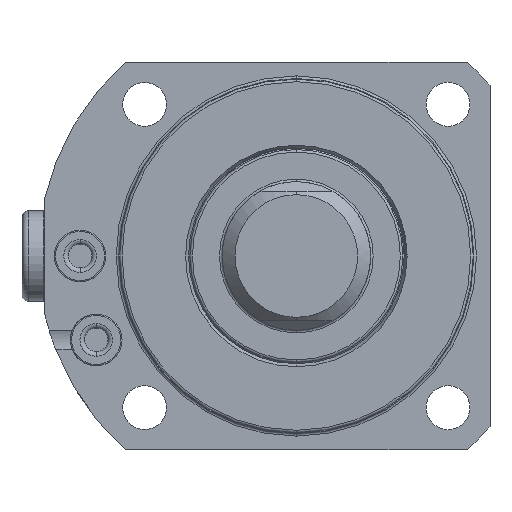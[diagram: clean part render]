
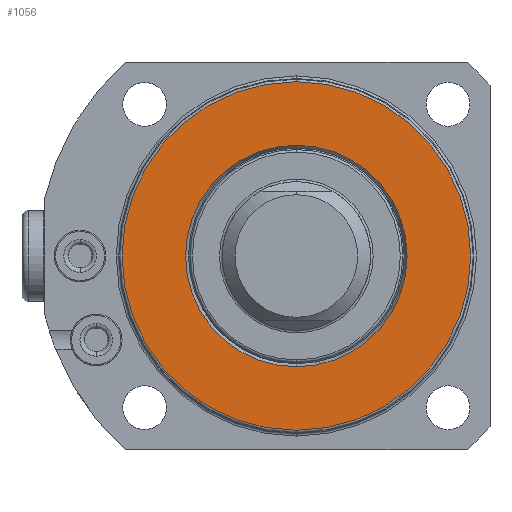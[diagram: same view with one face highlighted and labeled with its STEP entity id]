
A CAD part, front view. The second image highlights one B-rep face of the part: STEP entity #1056.
In plain terms, the highlighted planar face has unit normal (0, -1, 0).
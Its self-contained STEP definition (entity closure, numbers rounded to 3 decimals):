
#393=PLANE('',#4246);
#442=FACE_BOUND('',#1560,.T.);
#443=FACE_BOUND('',#1561,.T.);
#1056=ADVANCED_FACE('',(#442,#443),#393,.T.);
#1560=EDGE_LOOP('',(#2416,#2417));
#1561=EDGE_LOOP('',(#2418,#2419));
#2416=ORIENTED_EDGE('',*,*,#3378,.T.);
#2417=ORIENTED_EDGE('',*,*,#3443,.T.);
#2418=ORIENTED_EDGE('',*,*,#3373,.F.);
#2419=ORIENTED_EDGE('',*,*,#3444,.F.);
#2931=VERTEX_POINT('',#6734);
#2932=VERTEX_POINT('',#6735);
#2935=VERTEX_POINT('',#6743);
#2936=VERTEX_POINT('',#6745);
#3373=EDGE_CURVE('',#2931,#2932,#3724,.T.);
#3378=EDGE_CURVE('',#2936,#2935,#3728,.T.);
#3443=EDGE_CURVE('',#2935,#2936,#3763,.T.);
#3444=EDGE_CURVE('',#2932,#2931,#3764,.T.);
#3724=CIRCLE('',#4181,27.);
#3728=CIRCLE('',#4186,17.162);
#3763=CIRCLE('',#4243,17.162);
#3764=CIRCLE('',#4245,27.);
#4181=AXIS2_PLACEMENT_3D('',#6733,#5236,#5237);
#4186=AXIS2_PLACEMENT_3D('',#6744,#5247,#5248);
#4243=AXIS2_PLACEMENT_3D('',#6907,#5382,#5383);
#4245=AXIS2_PLACEMENT_3D('',#6909,#5386,#5387);
#4246=AXIS2_PLACEMENT_3D('',#6910,#5388,#5389);
#5236=DIRECTION('',(0.,1.,0.));
#5237=DIRECTION('',(0.,0.,1.));
#5247=DIRECTION('',(0.,1.,0.));
#5248=DIRECTION('',(0.,0.,1.));
#5382=DIRECTION('',(0.,1.,0.));
#5383=DIRECTION('',(0.,0.,1.));
#5386=DIRECTION('',(0.,1.,0.));
#5387=DIRECTION('',(0.,0.,1.));
#5388=DIRECTION('',(0.,-1.,0.));
#5389=DIRECTION('',(0.,0.,1.));
#6733=CARTESIAN_POINT('',(0.,54.887,0.));
#6734=CARTESIAN_POINT('',(0.,54.887,27.));
#6735=CARTESIAN_POINT('',(0.,54.887,-27.));
#6743=CARTESIAN_POINT('',(0.,54.887,17.162));
#6744=CARTESIAN_POINT('',(0.,54.887,0.));
#6745=CARTESIAN_POINT('',(0.,54.887,-17.162));
#6907=CARTESIAN_POINT('',(0.,54.887,0.));
#6909=CARTESIAN_POINT('',(0.,54.887,0.));
#6910=CARTESIAN_POINT('',(0.,54.887,0.));
